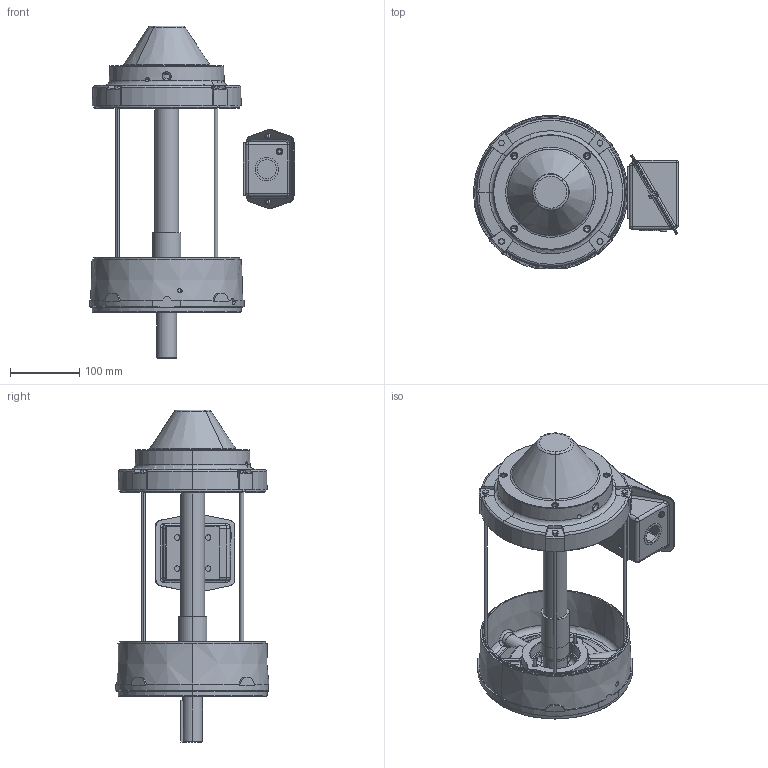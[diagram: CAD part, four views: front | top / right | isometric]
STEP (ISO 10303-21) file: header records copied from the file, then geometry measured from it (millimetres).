
FILE_DESCRIPTION (( 'STEP AP203' ), '1' );
FILE_NAME ('SS68967-875_RevA.STEP', '2021-04-12T06:07:01', ( '' ), ( '' ), 'SwSTEP 2.0', 'SolidWorks 2018', '' );
FILE_SCHEMA (( 'CONFIG_CONTROL_DESIGN' ));
Length unit declared in the file: inch
Products named in the file (1): SS68967-875_RevA
Bounding box: 296.95 x 221.87 x 480.73 mm (x, y, z)
Volume: 1852243.8 mm3; surface area: 592289.9 mm2
Topology: 16 solids, 16 shells, 1484 faces, 3778 edges, 2338 vertices
Faces by surface type: plane 410, cylinder 382, cone 248, bspline 232, torus 180, sphere 32
Entity records: 58842 total; most frequent: CARTESIAN_POINT 25056, ORIENTED_EDGE 7472, DIRECTION 6603, EDGE_CURVE 3736, AXIS2_PLACEMENT_3D 2729, VERTEX_POINT 2338, EDGE_LOOP 1598, ADVANCED_FACE 1484
